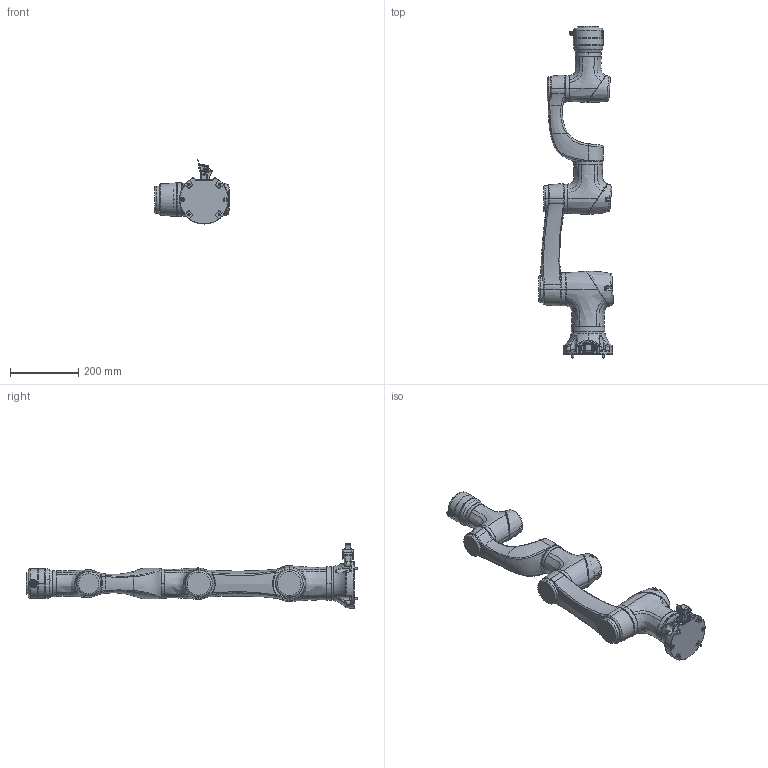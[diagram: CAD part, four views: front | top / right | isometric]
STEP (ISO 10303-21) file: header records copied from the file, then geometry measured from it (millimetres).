
FILE_DESCRIPTION (( 'STEP AP203' ), '1' );
FILE_NAME ('E03-pro儂迮忒_20230227.STEP', '2023-03-06T00:20:16', ( '' ), ( '' ), 'SwSTEP 2.0', 'SolidWorks 2020', '' );
FILE_SCHEMA (( 'CONFIG_CONTROL_DESIGN' ));
Length unit declared in the file: millimetre
Products named in the file (31): HREF-01-03-343A P03上臂顶盖（砂纹白）_简化; 17粣耀郪妗极耀倰; 17axial_module_妗极耀倰_20220705; M3x14_IP66_20190806_2.0_CB3-16; E0狟旋郪璃耀倰_20220707; Elfin_菁釱脣芛; Elfin_底座组件_插头卡环; E03菁釱郪璃耀倰_20220707; 5kg奻旋耜裔耀倰_20220706; 10kg奻旋耜裔耀倰_20220706; HREF-01-04-03-187A1 14耀郪綴傷裔_潠趙; 20耀郪妗昜耀倰_20220705; HREF-01-03-324A 14关节外壳（砂纹白）_简化; HREF-01-04-04-125A1 17模组后端盖_增加锥形孔; M3x28_CB3-16; E03-pro奻旋耀倰_20230227; M3x10_20190806_1.1_CB3-14; 14粣_酗粣_IP66_潠趙; HREF-01-04-03-122A1 14轴端垫圈_IP66_简化; 14_一体化力矩末端2.0_简化_20230227; HREF-01-03-284A 3kg菁釱YZ_滅惇; E03奻旋耀倰_20220707; E03狟旋耀倰_20220707; E03-pro儂迮忒_20230227; M3x20_20190806_1.1_CB3-14; 20axial_module_耀倰_20220705; Elfin_菁釱郪璃_脣芛裔; Elfin_菁釱郪璃_脣芛釱; 5kg狟旋奻耜裔耀倰_20220706; GB／T70．1-2000内六角圆柱头螺钉M6×20; 20模组后端盖模型_20220705_原始
Assembly tree (40 placements, depth 4):
  E03-pro儂迮忒_20230227
    E03菁釱郪璃耀倰_20220707
      Elfin_菁釱脣芛
        Elfin_菁釱郪璃_脣芛釱
        Elfin_菁釱郪璃_脣芛裔
        Elfin_底座组件_插头卡环
      HREF-01-03-284A 3kg菁釱YZ_滅惇
      GB／T70．1-2000内六角圆柱头螺钉M6×20  x4
    20axial_module_耀倰_20220705
      M3x20_20190806_1.1_CB3-14  x2
      M3x10_20190806_1.1_CB3-14  x2
      20耀郪妗昜耀倰_20220705
      20模组后端盖模型_20220705_原始
    E0狟旋郪璃耀倰_20220707
      E03狟旋耀倰_20220707
      10kg奻旋耜裔耀倰_20220706
      5kg狟旋奻耜裔耀倰_20220706
    17axial_module_妗极耀倰_20220705
      17粣耀郪妗极耀倰
      HREF-01-04-04-125A1 17模组后端盖_增加锥形孔
      M3x14_IP66_20190806_2.0_CB3-16  x4
    E03-pro奻旋耀倰_20230227
      E03奻旋耀倰_20220707
      5kg奻旋耜裔耀倰_20220706
      HREF-01-03-343A P03上臂顶盖（砂纹白）_简化
    14粣_酗粣_IP66_潠趙
      HREF-01-03-324A 14关节外壳（砂纹白）_简化
      HREF-01-04-03-122A1 14轴端垫圈_IP66_简化  x2
      HREF-01-04-03-187A1 14耀郪綴傷裔_潠趙
      M3x28_CB3-16  x2
    14_一体化力矩末端2.0_简化_20230227
Bounding box: 219.94 x 976.2 x 188.71 mm (x, y, z)
Volume: 7643355.2 mm3; surface area: 750000.7 mm2
Topology: 70 solids, 73 shells, 3281 faces, 7873 edges, 4849 vertices
Faces by surface type: plane 965, bspline 963, cylinder 791, cone 334, torus 208, sphere 20
Entity records: 228855 total; most frequent: CARTESIAN_POINT 161598, ORIENTED_EDGE 14682, DIRECTION 11150, EDGE_CURVE 7341, VERTEX_POINT 4573, AXIS2_PLACEMENT_3D 4481, EDGE_LOOP 3334, ADVANCED_FACE 3061
